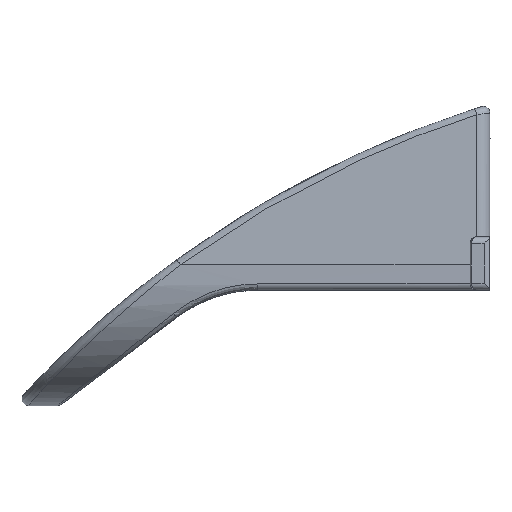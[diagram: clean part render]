
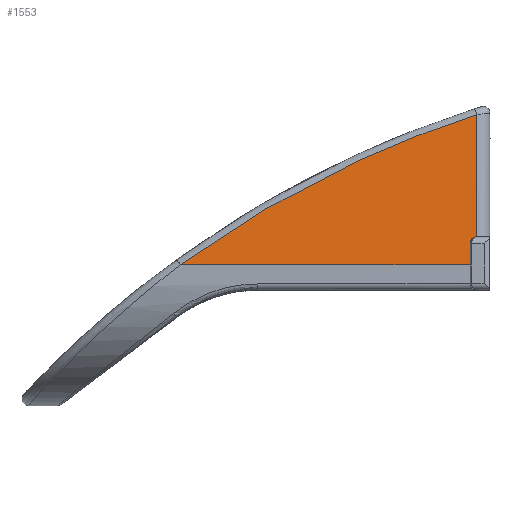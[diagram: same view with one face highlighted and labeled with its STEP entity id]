
A CAD part, left-side view. The second image highlights one B-rep face of the part: STEP entity #1553.
In plain terms, the highlighted planar face has unit normal (-0.998, 0, 0.06).
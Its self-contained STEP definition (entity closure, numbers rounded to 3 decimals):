
#3 = DIRECTION ( 'NONE',  ( 0.998, 0., -0.06 ) ) ;
#9 = PLANE ( 'NONE',  #316 ) ;
#42 = CARTESIAN_POINT ( 'NONE',  ( -9.982, 42., -12.096 ) ) ;
#84 = EDGE_CURVE ( 'NONE', #2210, #1208, #2611, .T. ) ;
#86 = B_SPLINE_CURVE_WITH_KNOTS ( 'NONE', 3,
 ( #1005, #2420, #1861, #2390, #2529, #2526 ),
 .UNSPECIFIED., .F., .F.,
 ( 4, 2, 4 ),
 ( 0., 0.5, 1. ),
 .UNSPECIFIED. ) ;
#103 = EDGE_CURVE ( 'NONE', #1828, #1769, #1240, .T. ) ;
#111 = CARTESIAN_POINT ( 'NONE',  ( -9.982, 42., -12.096 ) ) ;
#212 = VERTEX_POINT ( 'NONE', #1270 ) ;
#292 = VECTOR ( 'NONE', #2488, 1000. ) ;
#295 = VERTEX_POINT ( 'NONE', #1451 ) ;
#316 = AXIS2_PLACEMENT_3D ( 'NONE', #42, #3, #866 ) ;
#350 = ORIENTED_EDGE ( 'NONE', *, *, #2035, .F. ) ;
#404 = DIRECTION ( 'NONE',  ( -0.06, 0., -0.998 ) ) ;
#436 = DIRECTION ( 'NONE',  ( -0.06, -0.011, -0.998 ) ) ;
#486 = CARTESIAN_POINT ( 'NONE',  ( -9.982, 1.5, -12.096 ) ) ;
#529 = CARTESIAN_POINT ( 'NONE',  ( -9.855, 42., -10. ) ) ;
#537 = DIRECTION ( 'NONE',  ( 0., 1., 0. ) ) ;
#635 = CARTESIAN_POINT ( 'NONE',  ( -9.855, 1., -10. ) ) ;
#664 = EDGE_CURVE ( 'NONE', #295, #2210, #1096, .T. ) ;
#705 = EDGE_CURVE ( 'NONE', #212, #295, #86, .T. ) ;
#715 = LINE ( 'NONE', #111, #1899 ) ;
#732 = CARTESIAN_POINT ( 'NONE',  ( -9.915, 1.5, -10.995 ) ) ;
#785 = EDGE_CURVE ( 'NONE', #1769, #212, #715, .T. ) ;
#866 = DIRECTION ( 'NONE',  ( -0.06, 0., -0.998 ) ) ;
#1005 = CARTESIAN_POINT ( 'NONE',  ( -9.982, 23.307, -12.096 ) ) ;
#1025 = CARTESIAN_POINT ( 'NONE',  ( -9.915, 1.5, -10.995 ) ) ;
#1096 = LINE ( 'NONE', #2171, #292 ) ;
#1208 = VERTEX_POINT ( 'NONE', #2760 ) ;
#1226 = ORIENTED_EDGE ( 'NONE', *, *, #2280, .F. ) ;
#1240 = LINE ( 'NONE', #732, #2814 ) ;
#1270 = CARTESIAN_POINT ( 'NONE',  ( -9.982, 23.307, -12.096 ) ) ;
#1280 = CARTESIAN_POINT ( 'NONE',  ( -9.881, 1.5, -10.423 ) ) ;
#1302 = CARTESIAN_POINT ( 'NONE',  ( -9.865, 1.462, -10.168 ) ) ;
#1311 = CARTESIAN_POINT ( 'NONE',  ( -9.855, 1.003, -10. ) ) ;
#1319 = CARTESIAN_POINT ( 'NONE',  ( -9.855, 1.265, -10. ) ) ;
#1416 = ORIENTED_EDGE ( 'NONE', *, *, #664, .F. ) ;
#1451 = CARTESIAN_POINT ( 'NONE',  ( -9.299, 1., -0.806 ) ) ;
#1456 = LINE ( 'NONE', #486, #1602 ) ;
#1553 = ADVANCED_FACE ( 'NONE', ( #2237 ), #9, .F. ) ;
#1602 = VECTOR ( 'NONE', #404, 1000. ) ;
#1617 = ORIENTED_EDGE ( 'NONE', *, *, #705, .F. ) ;
#1705 =( BOUNDED_CURVE ( )  B_SPLINE_CURVE ( 3, ( #1311, #1319, #1302, #1280 ),
 .UNSPECIFIED., .F., .F. ) 
 B_SPLINE_CURVE_WITH_KNOTS ( ( 4, 4 ),
 ( 1.906, 3.322 ),
 .UNSPECIFIED. ) 
 CURVE ( )  GEOMETRIC_REPRESENTATION_ITEM ( )  RATIONAL_B_SPLINE_CURVE ( ( 1., 0.84, 0.84, 1. ) ) 
 REPRESENTATION_ITEM ( '' )  );
#1769 = VERTEX_POINT ( 'NONE', #2050 ) ;
#1828 = VERTEX_POINT ( 'NONE', #1025 ) ;
#1861 = CARTESIAN_POINT ( 'NONE',  ( -9.701, 16.333, -7.458 ) ) ;
#1886 = DIRECTION ( 'NONE',  ( 0., 1., 0. ) ) ;
#1899 = VECTOR ( 'NONE', #1886, 1000. ) ;
#2035 = EDGE_CURVE ( 'NONE', #1208, #2701, #1705, .T. ) ;
#2050 = CARTESIAN_POINT ( 'NONE',  ( -9.982, 1.488, -12.096 ) ) ;
#2148 = ORIENTED_EDGE ( 'NONE', *, *, #103, .F. ) ;
#2171 = CARTESIAN_POINT ( 'NONE',  ( -9.982, 1., -12.096 ) ) ;
#2210 = VERTEX_POINT ( 'NONE', #635 ) ;
#2237 = FACE_OUTER_BOUND ( 'NONE', #2832, .T. ) ;
#2280 = EDGE_CURVE ( 'NONE', #2701, #1828, #1456, .T. ) ;
#2390 = CARTESIAN_POINT ( 'NONE',  ( -9.473, 8.867, -3.679 ) ) ;
#2420 = CARTESIAN_POINT ( 'NONE',  ( -9.833, 19.917, -9.643 ) ) ;
#2439 = VECTOR ( 'NONE', #537, 1000. ) ;
#2488 = DIRECTION ( 'NONE',  ( -0.06, 0., -0.998 ) ) ;
#2526 = CARTESIAN_POINT ( 'NONE',  ( -9.299, 1., -0.806 ) ) ;
#2529 = CARTESIAN_POINT ( 'NONE',  ( -9.376, 4.984, -2.085 ) ) ;
#2531 = ORIENTED_EDGE ( 'NONE', *, *, #84, .F. ) ;
#2549 = CARTESIAN_POINT ( 'NONE',  ( -9.881, 1.5, -10.423 ) ) ;
#2611 = LINE ( 'NONE', #529, #2439 ) ;
#2701 = VERTEX_POINT ( 'NONE', #2549 ) ;
#2723 = ORIENTED_EDGE ( 'NONE', *, *, #785, .F. ) ;
#2760 = CARTESIAN_POINT ( 'NONE',  ( -9.855, 1.003, -10. ) ) ;
#2814 = VECTOR ( 'NONE', #436, 1000. ) ;
#2832 = EDGE_LOOP ( 'NONE', ( #350, #2531, #1416, #1617, #2723, #2148, #1226 ) ) ;
